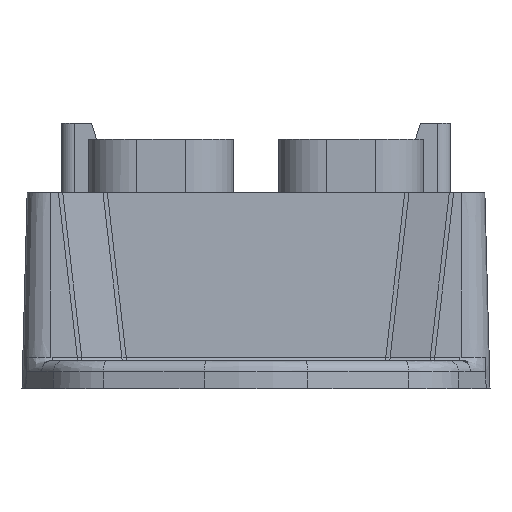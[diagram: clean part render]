
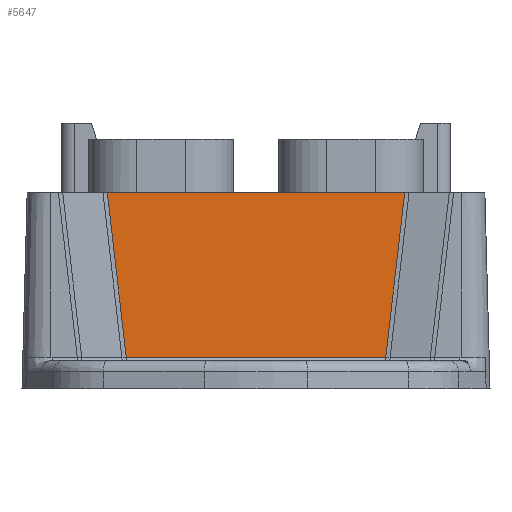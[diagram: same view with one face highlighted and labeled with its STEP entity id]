
A CAD part, left-side view. The second image highlights one B-rep face of the part: STEP entity #5647.
In plain terms, the highlighted planar face has unit normal (-1, 0, 0.026) as drawn and (-1, 0.026, 0) by its records, which use the part's own axes.
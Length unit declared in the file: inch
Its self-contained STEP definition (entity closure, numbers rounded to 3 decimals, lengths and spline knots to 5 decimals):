
#222 = DIRECTION ( 'NONE',  ( 0.026, 0.993, 0.114 ) ) ;
#334 = ORIENTED_EDGE ( 'NONE', *, *, #13219, .T. ) ;
#1542 = CARTESIAN_POINT ( 'NONE',  ( -1.04687, -0.73978, 0.58243 ) ) ;
#1716 = VECTOR ( 'NONE', #9689, 39.37008 ) ;
#2752 = VERTEX_POINT ( 'NONE', #10275 ) ;
#3092 = EDGE_CURVE ( 'NONE', #17323, #2752, #5370, .T. ) ;
#3399 = CARTESIAN_POINT ( 'NONE',  ( -1.0275, 0., -0.66767 ) ) ;
#3588 = VECTOR ( 'NONE', #15922, 39.37008 ) ;
#3620 = PLANE ( 'NONE',  #8310 ) ;
#3943 = CARTESIAN_POINT ( 'NONE',  ( -1.0275, 0., 0.66767 ) ) ;
#5121 = ORIENTED_EDGE ( 'NONE', *, *, #15100, .T. ) ;
#5306 = CARTESIAN_POINT ( 'NONE',  ( -1.0275, 0., 1.0275 ) ) ;
#5370 = LINE ( 'NONE', #11914, #3588 ) ;
#5647 = ADVANCED_FACE ( 'NONE', ( #13263 ), #3620, .T. ) ;
#6029 = ORIENTED_EDGE ( 'NONE', *, *, #3092, .T. ) ;
#6510 = VERTEX_POINT ( 'NONE', #3399 ) ;
#6562 = EDGE_CURVE ( 'NONE', #6510, #17323, #7067, .T. ) ;
#6829 = DIRECTION ( 'NONE',  ( -0.026, -1., 0. ) ) ;
#7067 = LINE ( 'NONE', #13824, #15392 ) ;
#7706 = VERTEX_POINT ( 'NONE', #3943 ) ;
#8213 = LINE ( 'NONE', #1542, #16875 ) ;
#8310 = AXIS2_PLACEMENT_3D ( 'NONE', #13516, #12093, #6829 ) ;
#9689 = DIRECTION ( 'NONE',  ( 0., 0., -1. ) ) ;
#9976 = CARTESIAN_POINT ( 'NONE',  ( -1.04687, -0.73978, -0.58243 ) ) ;
#10275 = CARTESIAN_POINT ( 'NONE',  ( -1.04687, -0.73978, 0.58243 ) ) ;
#11246 = DIRECTION ( 'NONE',  ( -0.026, -0.993, 0.114 ) ) ;
#11265 = ORIENTED_EDGE ( 'NONE', *, *, #6562, .T. ) ;
#11914 = CARTESIAN_POINT ( 'NONE',  ( -1.04687, -0.73978, -0.6775 ) ) ;
#12093 = DIRECTION ( 'NONE',  ( -1., 0.026, 0. ) ) ;
#12112 = LINE ( 'NONE', #5306, #1716 ) ;
#13219 = EDGE_CURVE ( 'NONE', #2752, #7706, #8213, .T. ) ;
#13263 = FACE_OUTER_BOUND ( 'NONE', #14648, .T. ) ;
#13516 = CARTESIAN_POINT ( 'NONE',  ( -1.0275, 0., -0.6775 ) ) ;
#13824 = CARTESIAN_POINT ( 'NONE',  ( -1.0275, 0., -0.66767 ) ) ;
#14648 = EDGE_LOOP ( 'NONE', ( #334, #5121, #11265, #6029 ) ) ;
#15100 = EDGE_CURVE ( 'NONE', #7706, #6510, #12112, .T. ) ;
#15392 = VECTOR ( 'NONE', #11246, 39.37008 ) ;
#15922 = DIRECTION ( 'NONE',  ( 0., 0., 1. ) ) ;
#16875 = VECTOR ( 'NONE', #222, 39.37008 ) ;
#17323 = VERTEX_POINT ( 'NONE', #9976 ) ;
